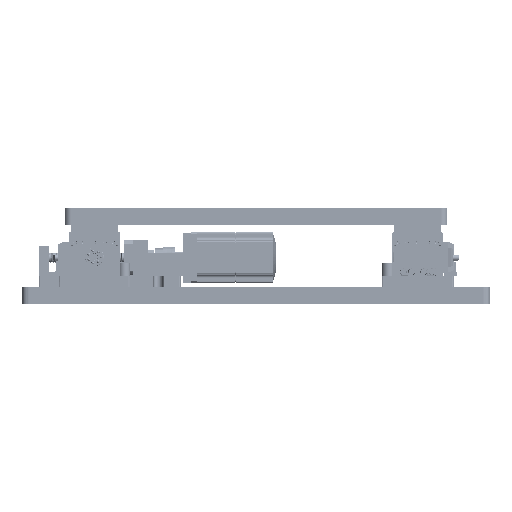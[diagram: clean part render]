
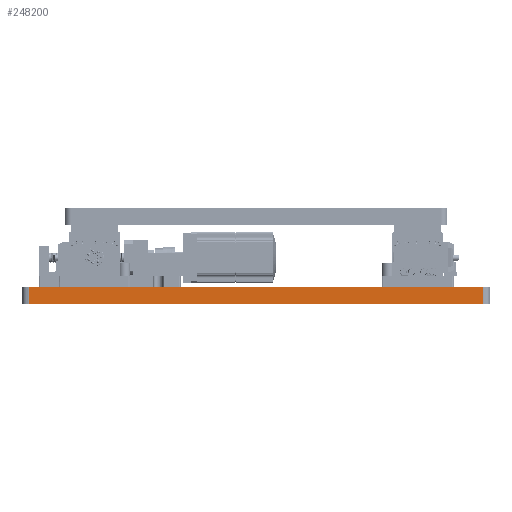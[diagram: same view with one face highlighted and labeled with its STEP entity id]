
A CAD part, top view. The second image highlights one B-rep face of the part: STEP entity #248200.
In plain terms, the highlighted planar face has unit normal (0, 0, 1).
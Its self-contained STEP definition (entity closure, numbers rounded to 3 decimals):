
#11829 = DIRECTION ( 'NONE',  ( 0., 0., -1. ) ) ;
#27720 = CARTESIAN_POINT ( 'NONE',  ( -267., 20., 275. ) ) ;
#45168 = DIRECTION ( 'NONE',  ( -1., 0., 0. ) ) ;
#46109 = ORIENTED_EDGE ( 'NONE', *, *, #280058, .T. ) ;
#55228 = LINE ( 'NONE', #57302, #105893 ) ;
#56992 = EDGE_CURVE ( 'NONE', #269225, #271147, #55228, .T. ) ;
#57302 = CARTESIAN_POINT ( 'NONE',  ( -267., 20., 275. ) ) ;
#70249 = CARTESIAN_POINT ( 'NONE',  ( -267., 20., 275. ) ) ;
#77524 = ORIENTED_EDGE ( 'NONE', *, *, #308172, .F. ) ;
#95921 = EDGE_CURVE ( 'NONE', #271147, #220113, #162072, .T. ) ;
#98984 = DIRECTION ( 'NONE',  ( 1., 0., 0. ) ) ;
#105893 = VECTOR ( 'NONE', #368278, 1000. ) ;
#124619 = PLANE ( 'NONE',  #135113 ) ;
#125609 = ORIENTED_EDGE ( 'NONE', *, *, #56992, .F. ) ;
#127517 = VECTOR ( 'NONE', #98984, 1000. ) ;
#135113 = AXIS2_PLACEMENT_3D ( 'NONE', #70249, #11829, #45168 ) ;
#162072 = LINE ( 'NONE', #224801, #364027 ) ;
#195811 = VERTEX_POINT ( 'NONE', #345173 ) ;
#204503 = CARTESIAN_POINT ( 'NONE',  ( 267., 20., 275. ) ) ;
#217755 = LINE ( 'NONE', #301848, #367829 ) ;
#220113 = VERTEX_POINT ( 'NONE', #364685 ) ;
#224801 = CARTESIAN_POINT ( 'NONE',  ( 267., 20., 275. ) ) ;
#248200 = ADVANCED_FACE ( 'NONE', ( #316559 ), #124619, .F. ) ;
#257628 = LINE ( 'NONE', #355500, #127517 ) ;
#269225 = VERTEX_POINT ( 'NONE', #27720 ) ;
#271147 = VERTEX_POINT ( 'NONE', #204503 ) ;
#280058 = EDGE_CURVE ( 'NONE', #195811, #220113, #257628, .T. ) ;
#285315 = DIRECTION ( 'NONE',  ( 0., -1., 0. ) ) ;
#286127 = ORIENTED_EDGE ( 'NONE', *, *, #95921, .F. ) ;
#301848 = CARTESIAN_POINT ( 'NONE',  ( -267., 20., 275. ) ) ;
#308172 = EDGE_CURVE ( 'NONE', #195811, #269225, #217755, .T. ) ;
#313628 = DIRECTION ( 'NONE',  ( 0., 1., 0. ) ) ;
#316559 = FACE_OUTER_BOUND ( 'NONE', #370148, .T. ) ;
#345173 = CARTESIAN_POINT ( 'NONE',  ( -267., 0., 275. ) ) ;
#355500 = CARTESIAN_POINT ( 'NONE',  ( -267., 0., 275. ) ) ;
#364027 = VECTOR ( 'NONE', #285315, 1000. ) ;
#364685 = CARTESIAN_POINT ( 'NONE',  ( 267., 0., 275. ) ) ;
#367829 = VECTOR ( 'NONE', #313628, 1000. ) ;
#368278 = DIRECTION ( 'NONE',  ( 1., 0., 0. ) ) ;
#370148 = EDGE_LOOP ( 'NONE', ( #286127, #125609, #77524, #46109 ) ) ;
